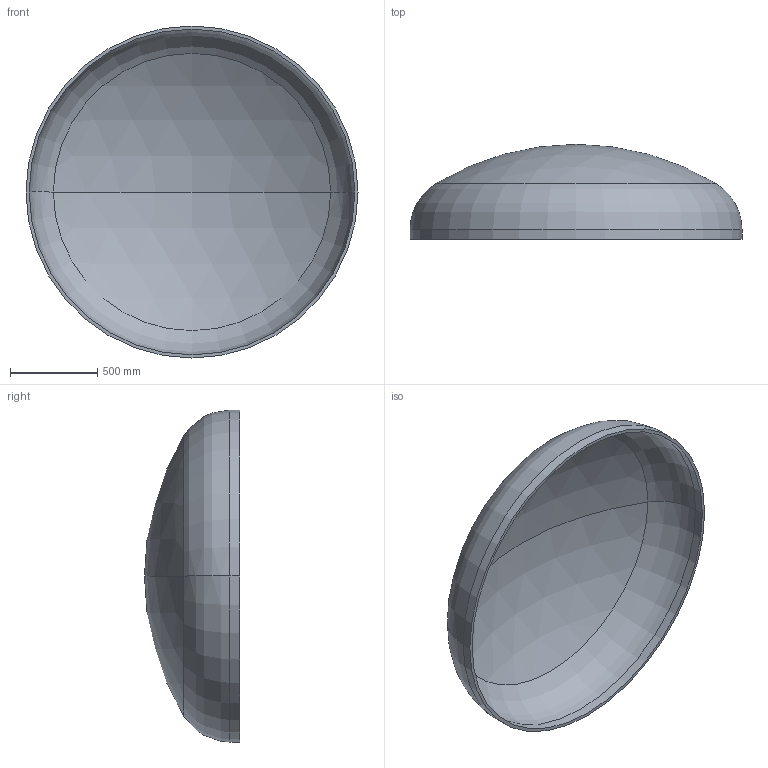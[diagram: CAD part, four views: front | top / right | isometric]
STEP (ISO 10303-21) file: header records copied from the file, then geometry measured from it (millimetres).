
FILE_DESCRIPTION (( 'STEP AP203' ), '1' );
FILE_NAME ('DIN 28013 Korbbogenform_-_Boden DIN 28013 - 1900 x 55 - I - s=18.step', '2016-07-01T12:58:05', ( '' ), ( '' ), 'SwSTEP 2.0', 'SolidWorks 2013', '' );
FILE_SCHEMA (( 'CONFIG_CONTROL_DESIGN' ));
Length unit declared in the file: millimetre
Products named in the file (1): DIN 28013 Korbbogenform_-_Boden DIN 28013 - 1900 x 55 - I - s=18
Bounding box: 1900 x 543.84 x 1900 mm (x, y, z)
Volume: 75534827.3 mm3; surface area: 8499858.6 mm2
Topology: 1 solids, 1 shells, 13 faces, 24 edges, 14 vertices
Faces by surface type: torus 4, cylinder 4, sphere 4, plane 1
Entity records: 407 total; most frequent: DIRECTION 72, CARTESIAN_POINT 52, ORIENTED_EDGE 48, AXIS2_PLACEMENT_3D 34, EDGE_CURVE 24, CIRCLE 20, VERTEX_POINT 14, EDGE_LOOP 14
